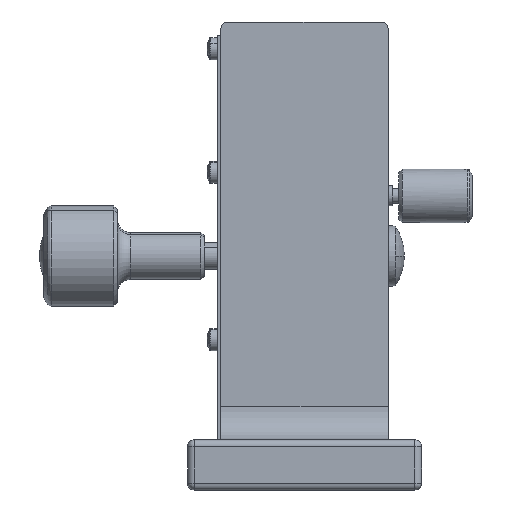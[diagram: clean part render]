
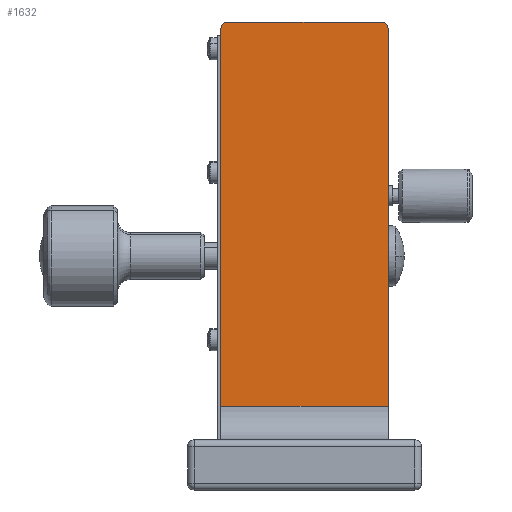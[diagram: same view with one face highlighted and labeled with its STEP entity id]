
A CAD part, front view. The second image highlights one B-rep face of the part: STEP entity #1632.
In plain terms, the highlighted planar face has unit normal (0, -1, 0).
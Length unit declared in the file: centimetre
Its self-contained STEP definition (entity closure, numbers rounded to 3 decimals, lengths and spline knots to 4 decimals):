
#1632 = ADVANCED_FACE ( 'NONE', ( #42257 ), #24071, .F. ) ;
#2160 = CARTESIAN_POINT ( 'NONE',  ( 1.25, 0., -2.25 ) ) ;
#3646 = VERTEX_POINT ( 'NONE', #14730 ) ;
#3801 = EDGE_CURVE ( 'NONE', #16507, #33633, #41020, .T. ) ;
#5820 = ORIENTED_EDGE ( 'NONE', *, *, #7651, .T. ) ;
#6168 = CARTESIAN_POINT ( 'NONE',  ( 1.25, 0., 3.4 ) ) ;
#6708 = VERTEX_POINT ( 'NONE', #17769 ) ;
#7263 = CARTESIAN_POINT ( 'NONE',  ( -1.25, 0., 3.5 ) ) ;
#7651 = EDGE_CURVE ( 'NONE', #6708, #16507, #56354, .T. ) ;
#7725 = ORIENTED_EDGE ( 'NONE', *, *, #10940, .T. ) ;
#9618 = VECTOR ( 'NONE', #38871, 100. ) ;
#10940 = EDGE_CURVE ( 'NONE', #57278, #20199, #45415, .T. ) ;
#14730 = CARTESIAN_POINT ( 'NONE',  ( -1.15, 0., 3.5 ) ) ;
#14834 = DIRECTION ( 'NONE',  ( 0., -1., 0. ) ) ;
#14942 = CIRCLE ( 'NONE', #53959, 0.1 ) ;
#16507 = VERTEX_POINT ( 'NONE', #48238 ) ;
#17769 = CARTESIAN_POINT ( 'NONE',  ( -1.25, 0., 3.4 ) ) ;
#20199 = VERTEX_POINT ( 'NONE', #55219 ) ;
#21450 = CARTESIAN_POINT ( 'NONE',  ( 1.15, 0., 3.4 ) ) ;
#21601 = CARTESIAN_POINT ( 'NONE',  ( -1.25, 0., 3.5 ) ) ;
#21680 = DIRECTION ( 'NONE',  ( 0., 0., 1. ) ) ;
#21757 = DIRECTION ( 'NONE',  ( 0., 1., 0. ) ) ;
#21859 = ORIENTED_EDGE ( 'NONE', *, *, #3801, .T. ) ;
#22467 = EDGE_LOOP ( 'NONE', ( #36574, #28987, #5820, #21859, #39756, #7725 ) ) ;
#22975 = CARTESIAN_POINT ( 'NONE',  ( -1.25, 0., 3.5 ) ) ;
#24071 = PLANE ( 'NONE',  #54262 ) ;
#24172 = EDGE_CURVE ( 'NONE', #3646, #20199, #32226, .T. ) ;
#25992 = DIRECTION ( 'NONE',  ( 0., 0., 1. ) ) ;
#28019 = CARTESIAN_POINT ( 'NONE',  ( 1.25, 0., 3.5 ) ) ;
#28987 = ORIENTED_EDGE ( 'NONE', *, *, #47646, .T. ) ;
#31632 = EDGE_CURVE ( 'NONE', #57278, #33633, #33324, .T. ) ;
#32226 = LINE ( 'NONE', #7263, #9618 ) ;
#33324 = LINE ( 'NONE', #28019, #55975 ) ;
#33633 = VERTEX_POINT ( 'NONE', #2160 ) ;
#35204 = AXIS2_PLACEMENT_3D ( 'NONE', #21450, #53075, #25992 ) ;
#36574 = ORIENTED_EDGE ( 'NONE', *, *, #24172, .F. ) ;
#38871 = DIRECTION ( 'NONE',  ( 1., 0., 0. ) ) ;
#39756 = ORIENTED_EDGE ( 'NONE', *, *, #31632, .F. ) ;
#40068 = VECTOR ( 'NONE', #57776, 100. ) ;
#41020 = LINE ( 'NONE', #54652, #51631 ) ;
#41850 = CARTESIAN_POINT ( 'NONE',  ( -1.15, 0., 3.4 ) ) ;
#42257 = FACE_OUTER_BOUND ( 'NONE', #22467, .T. ) ;
#45415 = CIRCLE ( 'NONE', #35204, 0.1 ) ;
#46433 = DIRECTION ( 'NONE',  ( 0., 0., 1. ) ) ;
#47646 = EDGE_CURVE ( 'NONE', #3646, #6708, #14942, .T. ) ;
#48238 = CARTESIAN_POINT ( 'NONE',  ( -1.25, 0., -2.25 ) ) ;
#51159 = DIRECTION ( 'NONE',  ( 0., 0., -1. ) ) ;
#51631 = VECTOR ( 'NONE', #54532, 100. ) ;
#53075 = DIRECTION ( 'NONE',  ( 0., -1., 0. ) ) ;
#53959 = AXIS2_PLACEMENT_3D ( 'NONE', #41850, #14834, #46433 ) ;
#54262 = AXIS2_PLACEMENT_3D ( 'NONE', #22975, #21757, #21680 ) ;
#54532 = DIRECTION ( 'NONE',  ( 1., 0., 0. ) ) ;
#54652 = CARTESIAN_POINT ( 'NONE',  ( 1.25, 0., -2.25 ) ) ;
#55219 = CARTESIAN_POINT ( 'NONE',  ( 1.15, 0., 3.5 ) ) ;
#55975 = VECTOR ( 'NONE', #51159, 100. ) ;
#56354 = LINE ( 'NONE', #21601, #40068 ) ;
#57278 = VERTEX_POINT ( 'NONE', #6168 ) ;
#57776 = DIRECTION ( 'NONE',  ( 0., 0., -1. ) ) ;
